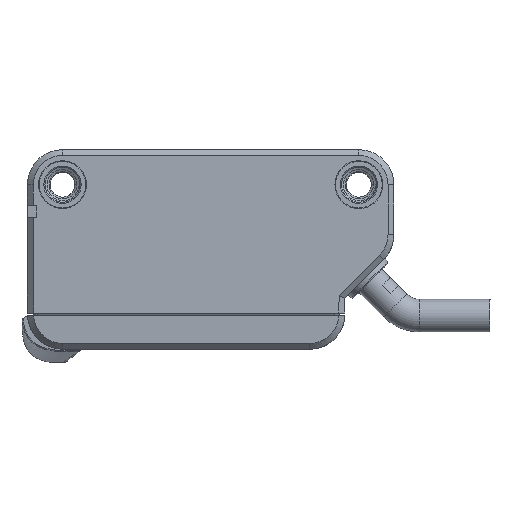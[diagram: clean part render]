
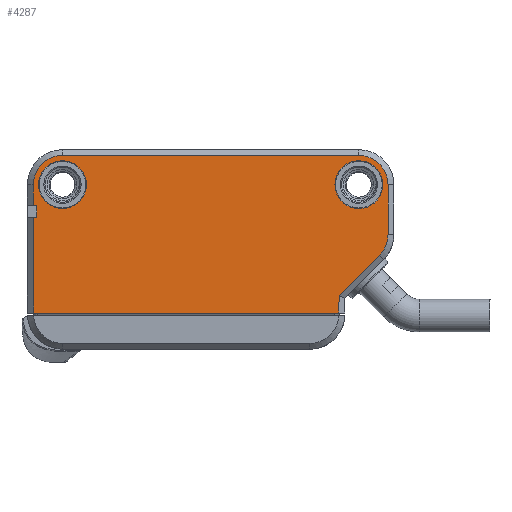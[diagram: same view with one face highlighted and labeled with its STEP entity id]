
A CAD part, left-side view. The second image highlights one B-rep face of the part: STEP entity #4287.
In plain terms, the highlighted planar face has unit normal (-1, 0, 0) as drawn and (0, 0, -1) by its records, which use the part's own axes.
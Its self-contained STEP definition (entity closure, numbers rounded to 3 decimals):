
#1008=CARTESIAN_POINT('',(-12.7,-4.2,-6.));
#1009=DIRECTION('',(0.,0.,1.));
#1010=DIRECTION('',(0.,-1.,0.));
#1011=AXIS2_PLACEMENT_3D('',#1008,#1009,#1010);
#1031=CARTESIAN_POINT('',(-12.7,-4.2,-6.));
#1032=DIRECTION('',(0.,0.,-1.));
#1033=DIRECTION('',(-1.,0.,0.));
#1034=AXIS2_PLACEMENT_3D('',#1031,#1032,#1033);
#1039=DIRECTION('',(0.,1.,0.));
#1040=VECTOR('',#1039,4.272);
#1041=CARTESIAN_POINT('',(-15.2,-8.472,
-6.));
#1042=LINE('',#1041,#1040);
#1046=CARTESIAN_POINT('',(-12.7,-8.472,-6.));
#1047=DIRECTION('',(0.,0.,-1.));
#1048=DIRECTION('',(-0.707,-0.707,0.));
#1049=AXIS2_PLACEMENT_3D('',#1046,#1047,#1048);
#1054=DIRECTION('',(-0.014,1.,0.));
#1055=VECTOR('',#1054,1.497);
#1056=CARTESIAN_POINT('',(-10.984,-15.2,-6.));
#1057=LINE('',#1056,#1055);
#1061=DIRECTION('',(0.,1.,0.));
#1062=VECTOR('',#1061,8.185);
#1063=CARTESIAN_POINT('',(15.183,-15.2,-6.));
#1064=LINE('',#1063,#1062);
#1068=DIRECTION('',(0.,-1.,0.));
#1069=VECTOR('',#1068,1.);
#1070=CARTESIAN_POINT('',(14.9,-6.,-6.));
#1071=LINE('',#1070,#1069);
#1075=DIRECTION('',(0.,-1.,0.));
#1076=VECTOR('',#1075,1.784);
#1077=CARTESIAN_POINT('',(15.2,-4.2,
-6.));
#1078=LINE('',#1077,#1076);
#1082=CARTESIAN_POINT('',(12.7,-4.2,-6.));
#1083=DIRECTION('',(0.,0.,-1.));
#1084=DIRECTION('',(0.,1.,0.));
#1085=AXIS2_PLACEMENT_3D('',#1082,#1083,#1084);
#1090=DIRECTION('',(1.,0.,0.));
#1091=VECTOR('',#1090,25.4);
#1092=CARTESIAN_POINT('',(-12.7,-1.7,
-6.));
#1093=LINE('',#1092,#1091);
#1097=CARTESIAN_POINT('',(-12.7,-4.2,-6.));
#1098=DIRECTION('',(0.,0.,1.));
#1099=DIRECTION('',(0.,1.,0.));
#1100=AXIS2_PLACEMENT_3D('',#1097,#1098,#1099);
#1120=CARTESIAN_POINT('',(12.7,-4.2,-6.));
#1121=DIRECTION('',(0.,0.,1.));
#1122=DIRECTION('',(0.,-1.,0.));
#1123=AXIS2_PLACEMENT_3D('',#1120,#1121,#1122);
#1192=CARTESIAN_POINT('',(12.7,-4.2,-6.));
#1193=DIRECTION('',(0.,0.,1.));
#1194=DIRECTION('',(0.,1.,0.));
#1195=AXIS2_PLACEMENT_3D('',#1192,#1193,#1194);
#1269=DIRECTION('',(-0.999,-0.052,0.));
#1270=VECTOR('',#1269,0.3);
#1271=CARTESIAN_POINT('',(15.2,-5.984,-6.));
#1272=LINE('',#1271,#1270);
#1804=DIRECTION('',(-1.,0.,0.));
#1805=VECTOR('',#1804,26.166);
#1806=CARTESIAN_POINT('',(15.183,-15.2,-6.));
#1807=LINE('',#1806,#1805);
#2020=DIRECTION('',(0.999,-0.052,0.));
#2021=VECTOR('',#2020,0.283);
#2022=CARTESIAN_POINT('',(14.9,-7.,-6.));
#2023=LINE('',#2022,#2021);
#2385=DIRECTION('',(-0.707,0.707,0.));
#2386=VECTOR('',#2385,4.898);
#2387=CARTESIAN_POINT('',(-11.004,-13.703,-6.));
#2388=LINE('',#2387,#2386);
#3042=CARTESIAN_POINT('',(-10.984,-15.2,-6.));
#3043=CARTESIAN_POINT('',(-11.004,-13.703,-6.));
#3044=VERTEX_POINT('',#3042);
#3045=VERTEX_POINT('',#3043);
#3063=CARTESIAN_POINT('',(15.183,-15.2,-6.));
#3065=VERTEX_POINT('',#3063);
#3066=CARTESIAN_POINT('',(-12.7,-2.2,-6.));
#3068=VERTEX_POINT('',#3066);
#3070=CARTESIAN_POINT('',(-12.7,-6.2,-6.));
#3072=VERTEX_POINT('',#3070);
#3074=CARTESIAN_POINT('',(12.7,-2.2,-6.));
#3076=VERTEX_POINT('',#3074);
#3080=CARTESIAN_POINT('',(-15.2,-4.2,-6.));
#3081=CARTESIAN_POINT('',(-12.7,-1.7,-6.));
#3082=VERTEX_POINT('',#3080);
#3083=VERTEX_POINT('',#3081);
#3088=CARTESIAN_POINT('',(-15.2,-8.472,
-6.));
#3089=VERTEX_POINT('',#3088);
#3093=CARTESIAN_POINT('',(-14.467,-10.24,
-6.));
#3095=VERTEX_POINT('',#3093);
#3096=CARTESIAN_POINT('',(12.7,-1.7,-6.));
#3097=CARTESIAN_POINT('',(15.2,-4.2,-6.));
#3098=VERTEX_POINT('',#3096);
#3099=VERTEX_POINT('',#3097);
#3128=CARTESIAN_POINT('',(12.7,-6.2,-6.));
#3129=VERTEX_POINT('',#3128);
#3224=CARTESIAN_POINT('',(14.9,-7.,-6.));
#3226=VERTEX_POINT('',#3224);
#3229=CARTESIAN_POINT('',(14.9,-6.,-6.));
#3231=VERTEX_POINT('',#3229);
#3237=CARTESIAN_POINT('',(15.183,-7.015,-6.));
#3238=VERTEX_POINT('',#3237);
#3239=CARTESIAN_POINT('',(15.2,-5.984,-6.));
#3241=VERTEX_POINT('',#3239);
#4243=CARTESIAN_POINT('',(15.7,0.,-6.));
#4244=DIRECTION('',(0.,0.,-1.));
#4245=DIRECTION('',(-1.,0.,0.));
#4246=AXIS2_PLACEMENT_3D('',#4243,#4244,#4245);
#4247=PLANE('',#4246);
#4249=ORIENTED_EDGE('',*,*,#4248,.F.);
#4251=ORIENTED_EDGE('',*,*,#4250,.F.);
#4253=ORIENTED_EDGE('',*,*,#4252,.F.);
#4255=ORIENTED_EDGE('',*,*,#4254,.F.);
#4257=ORIENTED_EDGE('',*,*,#4256,.F.);
#4259=ORIENTED_EDGE('',*,*,#4258,.F.);
#4261=ORIENTED_EDGE('',*,*,#4260,.T.);
#4263=ORIENTED_EDGE('',*,*,#4262,.F.);
#4265=ORIENTED_EDGE('',*,*,#4264,.F.);
#4267=ORIENTED_EDGE('',*,*,#4266,.F.);
#4269=ORIENTED_EDGE('',*,*,#4268,.F.);
#4271=ORIENTED_EDGE('',*,*,#4270,.F.);
#4273=ORIENTED_EDGE('',*,*,#4272,.F.);
#4274=EDGE_LOOP('',(#4249,#4251,#4253,#4255,#4257,#4259,#4261,#4263,#4265,#4267,
#4269,#4271,#4273));
#4275=FACE_OUTER_BOUND('',#4274,.F.);
#4277=ORIENTED_EDGE('',*,*,#4276,.F.);
#4279=ORIENTED_EDGE('',*,*,#4278,.F.);
#4280=EDGE_LOOP('',(#4277,#4279));
#4281=FACE_BOUND('',#4280,.F.);
#4283=ORIENTED_EDGE('',*,*,#4282,.F.);
#4284=ORIENTED_EDGE('',*,*,#4233,.F.);
#4285=EDGE_LOOP('',(#4283,#4284));
#4286=FACE_BOUND('',#4285,.F.);
#4287=ADVANCED_FACE('',(#4275,#4281,#4286),#4247,.T.);
#1012=CIRCLE('',#1011,2.);
#1035=CIRCLE('',#1034,2.5);
#1050=CIRCLE('',#1049,2.5);
#1086=CIRCLE('',#1085,2.5);
#1101=CIRCLE('',#1100,2.);
#1124=CIRCLE('',#1123,2.);
#1196=CIRCLE('',#1195,2.);
#4233=EDGE_CURVE('',#3072,#3068,#1012,.T.);
#4248=EDGE_CURVE('',#3082,#3083,#1035,.T.);
#4250=EDGE_CURVE('',#3089,#3082,#1042,.T.);
#4252=EDGE_CURVE('',#3095,#3089,#1050,.T.);
#4254=EDGE_CURVE('',#3045,#3095,#2388,.T.);
#4256=EDGE_CURVE('',#3044,#3045,#1057,.T.);
#4258=EDGE_CURVE('',#3065,#3044,#1807,.T.);
#4260=EDGE_CURVE('',#3065,#3238,#1064,.T.);
#4262=EDGE_CURVE('',#3226,#3238,#2023,.T.);
#4264=EDGE_CURVE('',#3231,#3226,#1071,.T.);
#4266=EDGE_CURVE('',#3241,#3231,#1272,.T.);
#4268=EDGE_CURVE('',#3099,#3241,#1078,.T.);
#4270=EDGE_CURVE('',#3098,#3099,#1086,.T.);
#4272=EDGE_CURVE('',#3083,#3098,#1093,.T.);
#4276=EDGE_CURVE('',#3129,#3076,#1124,.T.);
#4278=EDGE_CURVE('',#3076,#3129,#1196,.T.);
#4282=EDGE_CURVE('',#3068,#3072,#1101,.T.);
